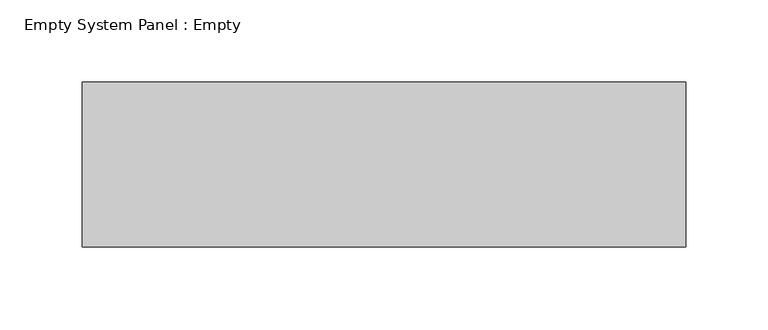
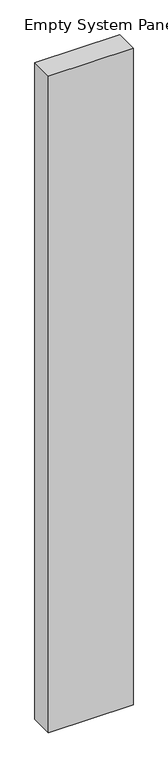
"""IFC4 building model written with IfcOpenShell, lengths in millimetres: plate geometry, Empty System Panel : Empty."""

from ifc_helpers import new_model, si_unit, origin, origin_with_axes, place, context, project, spatial, polyline, outline, extrude, source, transform, mapped, element, save


def empty_system_panel_empty_f4fe8983(model_context):
    return source(origin(), model_context, "Body", "SweptSolid", [
        extrude(outline(polyline([(183.0294373, -50.0), (-183.0294373, -50.0), (-183.0294373, 50.0), (183.0294373, 50.0), (183.0294373, -50.0)])), origin_with_axes(), (0.0, 0.0, 1.0), 3000.0),
    ])


if __name__ == "__main__":
    model = new_model("IFC4")
    model_context = context("Model", 3, world=origin())
    ifc_project = project(units=[si_unit("LENGTHUNIT", "METRE", prefix="MILLI")], contexts=[model_context])
    site = spatial("IfcSite", under=ifc_project)
    building = spatial("IfcBuilding", under=site)
    placement = place(None, origin())
    empty_system_panel_empty_shape = empty_system_panel_empty_f4fe8983(model_context)
    element("IfcPlate", 1, ObjectType="Empty System Panel : Empty", at=placement, inside=building, context=model_context, shape_type="MappedRepresentation", body=[
        mapped(empty_system_panel_empty_shape, transform((0.0, 0.0, 0.0), x_axis=(1.0, 0.0, 0.0), y_axis=(0.0, 1.0, 0.0), z_axis=(0.0, 0.0, 1.0))),
    ])
    save(model, "model.ifc")
